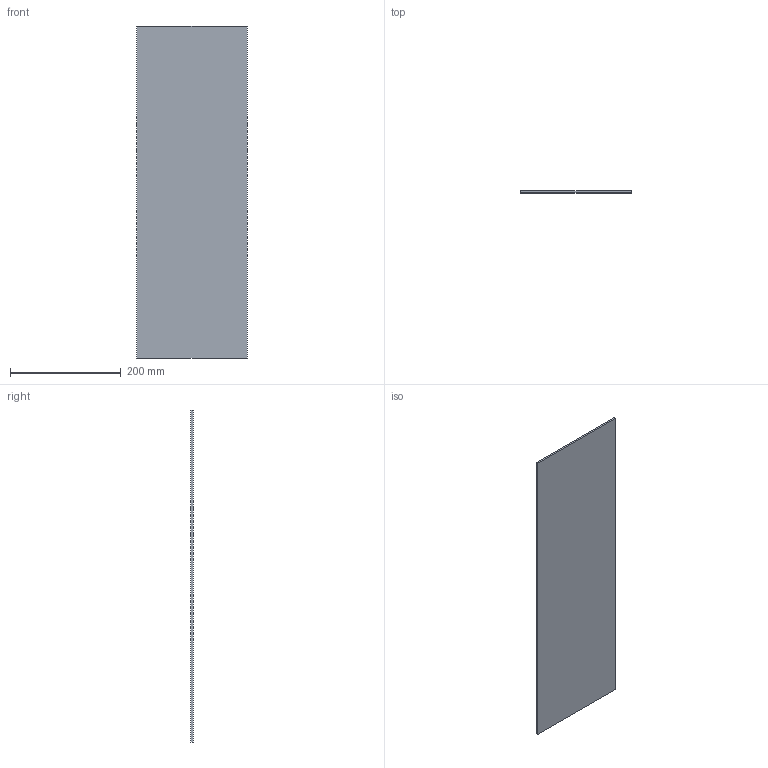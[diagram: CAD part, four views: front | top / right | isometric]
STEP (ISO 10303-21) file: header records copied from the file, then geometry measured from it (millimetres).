
FILE_DESCRIPTION(('Open CASCADE Model'),'2;1');
FILE_NAME('Open CASCADE Shape Model','2026-11-07T22:47:53',('Author'),( 'Open CASCADE'),'Open CASCADE STEP processor 7.9','Open CASCADE 7.9' ,'Unknown');
FILE_SCHEMA(('AUTOMOTIVE_DESIGN { 1 0 10303 214 1 1 1 1 }'));
Length unit declared in the file: millimetre
Products named in the file (1): Open CASCADE STEP translator 7.9 10
Bounding box: 200 x 4 x 600 mm (x, y, z)
Volume: 480000 mm3; surface area: 246400 mm2
Topology: 1 solids, 1 shells, 6 faces, 12 edges, 8 vertices
Faces by surface type: plane 6
Entity records: 322 total; most frequent: CARTESIAN_POINT 51, DIRECTION 50, LINE 36, VECTOR 36, ORIENTED_EDGE 24, PCURVE 24, DEFINITIONAL_REPRESENTATION 24, EDGE_CURVE 12
